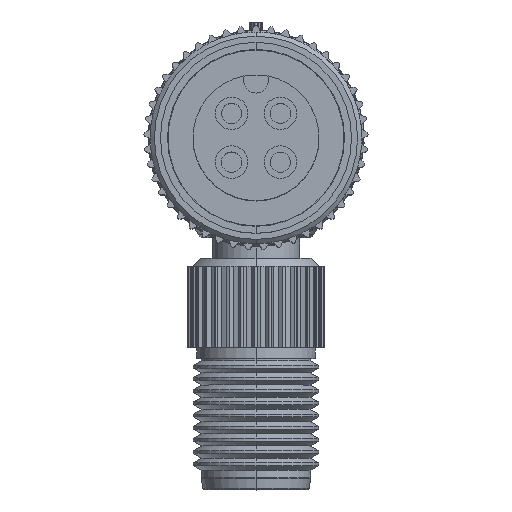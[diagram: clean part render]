
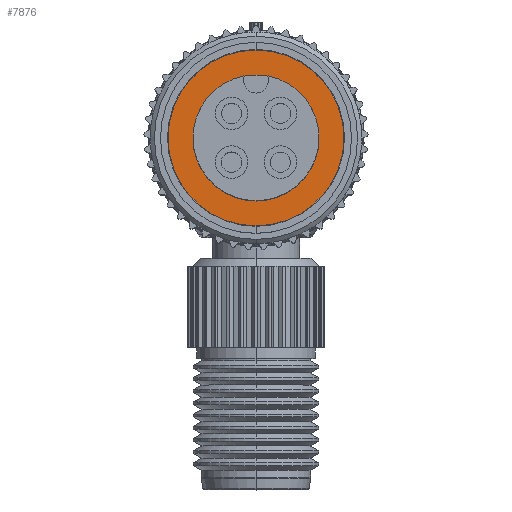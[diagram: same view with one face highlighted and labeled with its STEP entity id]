
A CAD part, top view. The second image highlights one B-rep face of the part: STEP entity #7876.
In plain terms, the highlighted planar face has unit normal (0, 0, 1).
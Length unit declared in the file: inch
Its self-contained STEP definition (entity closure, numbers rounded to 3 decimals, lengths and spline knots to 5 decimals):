
#40=CARTESIAN_POINT('',(0.,0.,-0.5));
#41=DIRECTION('',(0.,0.,-1.));
#42=DIRECTION('',(0.,-1.,0.));
#43=AXIS2_PLACEMENT_3D('',#40,#41,#42);
#45=CARTESIAN_POINT('',(0.,0.,-0.5));
#46=DIRECTION('',(0.,0.,-1.));
#47=DIRECTION('',(0.,1.,0.));
#48=AXIS2_PLACEMENT_3D('',#45,#46,#47);
#50=CARTESIAN_POINT('',(0.,0.,-0.5));
#51=DIRECTION('',(0.,0.,1.));
#52=DIRECTION('',(0.,-1.,0.));
#53=AXIS2_PLACEMENT_3D('',#50,#51,#52);
#55=CARTESIAN_POINT('',(0.,0.,-0.5));
#56=DIRECTION('',(0.,0.,1.));
#57=DIRECTION('',(0.,1.,0.));
#58=AXIS2_PLACEMENT_3D('',#55,#56,#57);
#6398=CARTESIAN_POINT('',(0.,-0.155,-0.5));
#6399=VERTEX_POINT('',#6398);
#6400=CARTESIAN_POINT('',(0.,0.155,-0.5));
#6401=VERTEX_POINT('',#6400);
#6410=CARTESIAN_POINT('',(0.,-0.2165,-0.5));
#6411=CARTESIAN_POINT('',(0.,0.2165,-0.5));
#6412=VERTEX_POINT('',#6410);
#6413=VERTEX_POINT('',#6411);
#7861=CARTESIAN_POINT('',(0.,0.,-0.5));
#7862=DIRECTION('',(0.,0.,1.));
#7863=DIRECTION('',(0.,1.,0.));
#7864=AXIS2_PLACEMENT_3D('',#7861,#7862,#7863);
#7865=PLANE('',#7864);
#7867=ORIENTED_EDGE('',*,*,#7866,.T.);
#7869=ORIENTED_EDGE('',*,*,#7868,.T.);
#7870=EDGE_LOOP('',(#7867,#7869));
#7871=FACE_OUTER_BOUND('',#7870,.F.);
#7872=ORIENTED_EDGE('',*,*,#7851,.T.);
#7873=ORIENTED_EDGE('',*,*,#7820,.T.);
#7874=EDGE_LOOP('',(#7872,#7873));
#7875=FACE_BOUND('',#7874,.F.);
#7876=ADVANCED_FACE('',(#7871,#7875),#7865,.T.);
#44=CIRCLE('',#43,0.2165);
#49=CIRCLE('',#48,0.2165);
#54=CIRCLE('',#53,0.155);
#59=CIRCLE('',#58,0.155);
#7820=EDGE_CURVE('',#6401,#6399,#59,.T.);
#7851=EDGE_CURVE('',#6399,#6401,#54,.T.);
#7866=EDGE_CURVE('',#6412,#6413,#44,.T.);
#7868=EDGE_CURVE('',#6413,#6412,#49,.T.);
